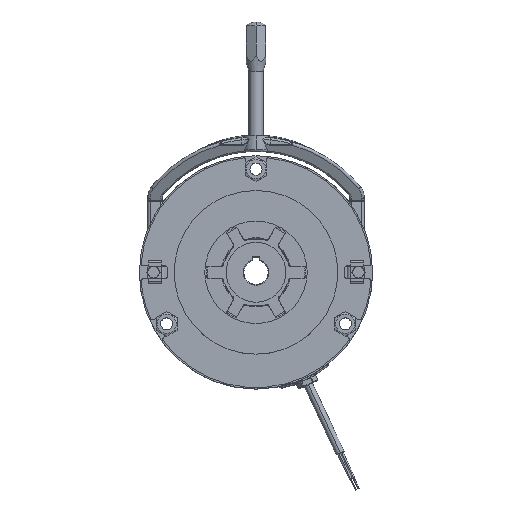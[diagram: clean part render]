
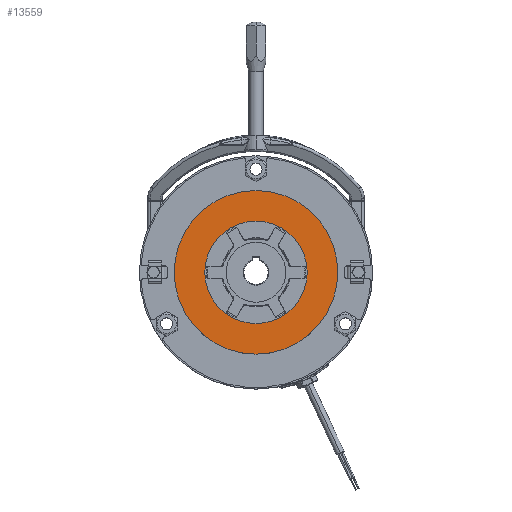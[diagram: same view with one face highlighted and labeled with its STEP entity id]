
A CAD part, top view. The second image highlights one B-rep face of the part: STEP entity #13559.
In plain terms, the highlighted planar face has unit normal (0, 0, 1).
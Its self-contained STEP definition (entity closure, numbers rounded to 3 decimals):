
#3035 = CARTESIAN_POINT ( 'NONE',  ( 0., 0., 6. ) ) ;
#4730 = CIRCLE ( 'NONE', #25124, 57.5 ) ;
#5766 = EDGE_LOOP ( 'NONE', ( #24986, #41327 ) ) ;
#7544 = DIRECTION ( 'NONE',  ( 0., 0., 1. ) ) ;
#8789 = CARTESIAN_POINT ( 'NONE',  ( 0., 0., 6. ) ) ;
#9455 = EDGE_CURVE ( 'NONE', #49378, #29285, #32383, .T. ) ;
#9465 = DIRECTION ( 'NONE',  ( 0., 0., 1. ) ) ;
#12539 = EDGE_LOOP ( 'NONE', ( #30065, #51715 ) ) ;
#13559 = ADVANCED_FACE ( 'NONE', ( #46468, #32304 ), #61038, .T. ) ;
#18046 = DIRECTION ( 'NONE',  ( 1., 0., 0. ) ) ;
#21287 = AXIS2_PLACEMENT_3D ( 'NONE', #3035, #50474, #51071 ) ;
#22003 = CARTESIAN_POINT ( 'NONE',  ( 0., 0., 6. ) ) ;
#23510 = CIRCLE ( 'NONE', #49705, 36. ) ;
#24962 = EDGE_CURVE ( 'NONE', #29285, #49378, #4730, .T. ) ;
#24986 = ORIENTED_EDGE ( 'NONE', *, *, #9455, .F. ) ;
#25104 = CARTESIAN_POINT ( 'NONE',  ( 36., 0., 6. ) ) ;
#25124 = AXIS2_PLACEMENT_3D ( 'NONE', #8789, #57199, #42642 ) ;
#25644 = CARTESIAN_POINT ( 'NONE',  ( -36., 0., 6. ) ) ;
#27872 = CARTESIAN_POINT ( 'NONE',  ( 0., 57.5, 6. ) ) ;
#29285 = VERTEX_POINT ( 'NONE', #36196 ) ;
#30065 = ORIENTED_EDGE ( 'NONE', *, *, #53497, .F. ) ;
#30713 = VERTEX_POINT ( 'NONE', #25104 ) ;
#31643 = CARTESIAN_POINT ( 'NONE',  ( 0., 0., 6. ) ) ;
#31941 = DIRECTION ( 'NONE',  ( 1., 0., 0. ) ) ;
#32304 = FACE_BOUND ( 'NONE', #12539, .T. ) ;
#32383 = CIRCLE ( 'NONE', #21287, 57.5 ) ;
#36196 = CARTESIAN_POINT ( 'NONE',  ( 57.5, 0., 6. ) ) ;
#38963 = CIRCLE ( 'NONE', #60178, 36. ) ;
#41236 = DIRECTION ( 'NONE',  ( 1., 0., 0. ) ) ;
#41327 = ORIENTED_EDGE ( 'NONE', *, *, #24962, .F. ) ;
#42642 = DIRECTION ( 'NONE',  ( -1., 0., 0. ) ) ;
#43227 = CARTESIAN_POINT ( 'NONE',  ( -57.5, 0., 6. ) ) ;
#46468 = FACE_OUTER_BOUND ( 'NONE', #5766, .T. ) ;
#49378 = VERTEX_POINT ( 'NONE', #43227 ) ;
#49705 = AXIS2_PLACEMENT_3D ( 'NONE', #31643, #7544, #31941 ) ;
#50474 = DIRECTION ( 'NONE',  ( 0., 0., -1. ) ) ;
#51071 = DIRECTION ( 'NONE',  ( -1., 0., 0. ) ) ;
#51715 = ORIENTED_EDGE ( 'NONE', *, *, #59664, .F. ) ;
#51946 = DIRECTION ( 'NONE',  ( 0., 0., 1. ) ) ;
#53497 = EDGE_CURVE ( 'NONE', #59960, #30713, #23510, .T. ) ;
#57199 = DIRECTION ( 'NONE',  ( 0., 0., -1. ) ) ;
#59664 = EDGE_CURVE ( 'NONE', #30713, #59960, #38963, .T. ) ;
#59734 = AXIS2_PLACEMENT_3D ( 'NONE', #27872, #9465, #18046 ) ;
#59960 = VERTEX_POINT ( 'NONE', #25644 ) ;
#60178 = AXIS2_PLACEMENT_3D ( 'NONE', #22003, #51946, #41236 ) ;
#61038 = PLANE ( 'NONE',  #59734 ) ;
